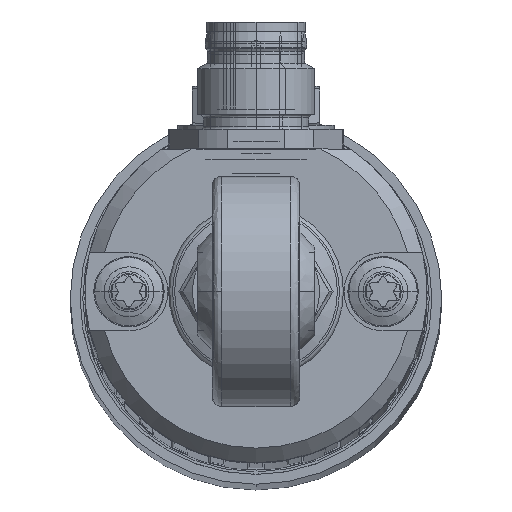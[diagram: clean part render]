
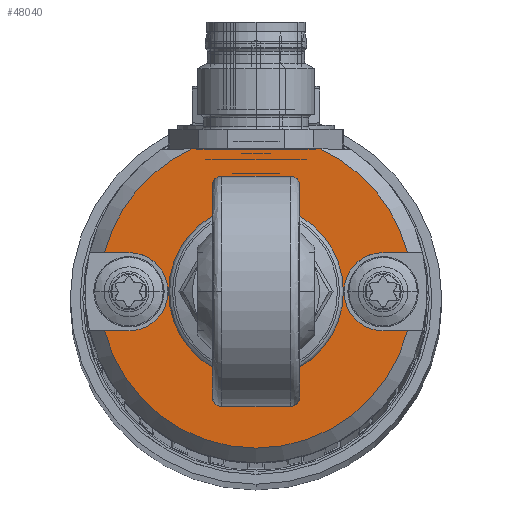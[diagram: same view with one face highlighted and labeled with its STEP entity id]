
A CAD part, top view. The second image highlights one B-rep face of the part: STEP entity #48040.
In plain terms, the highlighted planar face has unit normal (0, 0, 1).
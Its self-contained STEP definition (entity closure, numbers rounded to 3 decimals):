
#8566 = CARTESIAN_POINT ( 'NONE',  ( 0., 4.3, 406.7 ) ) ;
#8730 = DIRECTION ( 'NONE',  ( 0., 0., 1. ) ) ;
#8731 = CARTESIAN_POINT ( 'NONE',  ( 0., 0., 406.7 ) ) ;
#8732 = AXIS2_PLACEMENT_3D ( 'NONE', #8731, #8730, #8784 ) ;
#8733 = CIRCLE ( 'NONE', #8732, 4.3 ) ;
#8783 = CARTESIAN_POINT ( 'NONE',  ( 0., -4.3, 406.7 ) ) ;
#8784 = DIRECTION ( 'NONE',  ( 0., -1., 0. ) ) ;
#8873 = CARTESIAN_POINT ( 'NONE',  ( 0., 14.6, 406.7 ) ) ;
#8874 = LINE ( 'NONE', #8873, #8938 ) ;
#8875 = CARTESIAN_POINT ( 'NONE',  ( 6.545, 14.6, 406.7 ) ) ;
#8876 = DIRECTION ( 'NONE',  ( 0., 1., 0. ) ) ;
#8877 = DIRECTION ( 'NONE',  ( 0., 0., 1. ) ) ;
#8878 = CARTESIAN_POINT ( 'NONE',  ( 0., 0., 406.7 ) ) ;
#8879 = AXIS2_PLACEMENT_3D ( 'NONE', #8878, #8877, #8876 ) ;
#8880 = CIRCLE ( 'NONE', #8879, 16. ) ;
#8881 = CARTESIAN_POINT ( 'NONE',  ( 15.492, 4., 406.7 ) ) ;
#8882 = DIRECTION ( 'NONE',  ( 1., 0., 0. ) ) ;
#8883 = VECTOR ( 'NONE', #8882, 1000. ) ;
#8884 = CARTESIAN_POINT ( 'NONE',  ( 0., 4., 406.7 ) ) ;
#8885 = LINE ( 'NONE', #8884, #8883 ) ;
#8916 = FACE_OUTER_BOUND ( 'NONE', #48045, .T. ) ;
#8917 = FACE_BOUND ( 'NONE', #48041, .T. ) ;
#8925 = DIRECTION ( 'NONE',  ( -1., 0., 0. ) ) ;
#8926 = VECTOR ( 'NONE', #8925, 1000. ) ;
#8927 = CARTESIAN_POINT ( 'NONE',  ( -20., 4., 406.7 ) ) ;
#8928 = LINE ( 'NONE', #8927, #8926 ) ;
#8930 = CARTESIAN_POINT ( 'NONE',  ( -15.492, 4., 406.7 ) ) ;
#8931 = DIRECTION ( 'NONE',  ( 0., 1., 0. ) ) ;
#8932 = DIRECTION ( 'NONE',  ( 0., 0., 1. ) ) ;
#8933 = CARTESIAN_POINT ( 'NONE',  ( 0., 0., 406.7 ) ) ;
#8934 = AXIS2_PLACEMENT_3D ( 'NONE', #8933, #8932, #8931 ) ;
#8935 = CIRCLE ( 'NONE', #8934, 16. ) ;
#8936 = CARTESIAN_POINT ( 'NONE',  ( -6.545, 14.6, 406.7 ) ) ;
#8937 = DIRECTION ( 'NONE',  ( -1., 0., 0. ) ) ;
#8938 = VECTOR ( 'NONE', #8937, 1000. ) ;
#8959 = CARTESIAN_POINT ( 'NONE',  ( 13., 4., 406.7 ) ) ;
#8960 = DIRECTION ( 'NONE',  ( 0., -1., 0. ) ) ;
#8961 = DIRECTION ( 'NONE',  ( 0., 0., 1. ) ) ;
#8962 = CARTESIAN_POINT ( 'NONE',  ( 0., 0., 406.7 ) ) ;
#8963 = AXIS2_PLACEMENT_3D ( 'NONE', #8962, #8961, #8960 ) ;
#8964 = DIRECTION ( 'NONE',  ( 0., 1., 0. ) ) ;
#8965 = DIRECTION ( 'NONE',  ( 0., 0., -1. ) ) ;
#8966 = CARTESIAN_POINT ( 'NONE',  ( 0., 0., 406.7 ) ) ;
#8967 = AXIS2_PLACEMENT_3D ( 'NONE', #8966, #8965, #8964 ) ;
#8968 = CIRCLE ( 'NONE', #8963, 4.3 ) ;
#8969 = PLANE ( 'NONE',  #8967 ) ;
#9070 = DIRECTION ( 'NONE',  ( 0., -1., 0. ) ) ;
#9071 = DIRECTION ( 'NONE',  ( 0., 0., 1. ) ) ;
#9072 = CARTESIAN_POINT ( 'NONE',  ( 13., 0., 406.7 ) ) ;
#9073 = AXIS2_PLACEMENT_3D ( 'NONE', #9072, #9071, #9070 ) ;
#9075 = CIRCLE ( 'NONE', #9073, 4. ) ;
#9076 = AXIS2_PLACEMENT_3D ( 'NONE', #9141, #9140, #9139 ) ;
#9077 = CIRCLE ( 'NONE', #9076, 16. ) ;
#9078 = CARTESIAN_POINT ( 'NONE',  ( -15.492, -4., 406.7 ) ) ;
#9079 = DIRECTION ( 'NONE',  ( -1., 0., 0. ) ) ;
#9080 = VECTOR ( 'NONE', #9079, 1000. ) ;
#9081 = CARTESIAN_POINT ( 'NONE',  ( 0., -4., 406.7 ) ) ;
#9082 = LINE ( 'NONE', #9081, #9080 ) ;
#9083 = CARTESIAN_POINT ( 'NONE',  ( -13., -4., 406.7 ) ) ;
#9084 = DIRECTION ( 'NONE',  ( 0., -1., 0. ) ) ;
#9085 = DIRECTION ( 'NONE',  ( 0., 0., 1. ) ) ;
#9086 = CARTESIAN_POINT ( 'NONE',  ( -13., 0., 406.7 ) ) ;
#9087 = AXIS2_PLACEMENT_3D ( 'NONE', #9086, #9085, #9084 ) ;
#9088 = CIRCLE ( 'NONE', #9087, 4. ) ;
#9089 = CARTESIAN_POINT ( 'NONE',  ( -13., 4., 406.7 ) ) ;
#9133 = CARTESIAN_POINT ( 'NONE',  ( 13., -4., 406.7 ) ) ;
#9134 = DIRECTION ( 'NONE',  ( 1., 0., 0. ) ) ;
#9135 = VECTOR ( 'NONE', #9134, 1000. ) ;
#9136 = CARTESIAN_POINT ( 'NONE',  ( 13., -4., 406.7 ) ) ;
#9137 = LINE ( 'NONE', #9136, #9135 ) ;
#9138 = CARTESIAN_POINT ( 'NONE',  ( 15.492, -4., 406.7 ) ) ;
#9139 = DIRECTION ( 'NONE',  ( 0., 1., 0. ) ) ;
#9140 = DIRECTION ( 'NONE',  ( 0., 0., 1. ) ) ;
#9141 = CARTESIAN_POINT ( 'NONE',  ( 0., 0., 406.7 ) ) ;
#47903 = VERTEX_POINT ( 'NONE', #8566 ) ;
#47960 = EDGE_CURVE ( 'NONE', #47903, #47961, #8733, .T. ) ;
#47961 = VERTEX_POINT ( 'NONE', #8783 ) ;
#48020 = ORIENTED_EDGE ( 'NONE', *, *, #48021, .T. ) ;
#48021 = EDGE_CURVE ( 'NONE', #48046, #48022, #8885, .T. ) ;
#48022 = VERTEX_POINT ( 'NONE', #8881 ) ;
#48023 = ORIENTED_EDGE ( 'NONE', *, *, #48024, .T. ) ;
#48024 = EDGE_CURVE ( 'NONE', #48022, #48025, #8880, .T. ) ;
#48025 = VERTEX_POINT ( 'NONE', #8875 ) ;
#48026 = ORIENTED_EDGE ( 'NONE', *, *, #48027, .T. ) ;
#48027 = EDGE_CURVE ( 'NONE', #48025, #48028, #8874, .T. ) ;
#48028 = VERTEX_POINT ( 'NONE', #8936 ) ;
#48029 = ORIENTED_EDGE ( 'NONE', *, *, #48030, .T. ) ;
#48030 = EDGE_CURVE ( 'NONE', #48028, #48031, #8935, .T. ) ;
#48031 = VERTEX_POINT ( 'NONE', #8930 ) ;
#48032 = ORIENTED_EDGE ( 'NONE', *, *, #48033, .F. ) ;
#48033 = EDGE_CURVE ( 'NONE', #48088, #48031, #8928, .T. ) ;
#48040 = ADVANCED_FACE ( 'NONE', ( #8917, #8916 ), #8969, .F. ) ;
#48041 = EDGE_LOOP ( 'NONE', ( #48042, #48044 ) ) ;
#48042 = ORIENTED_EDGE ( 'NONE', *, *, #48043, .F. ) ;
#48043 = EDGE_CURVE ( 'NONE', #47961, #47903, #8968, .T. ) ;
#48044 = ORIENTED_EDGE ( 'NONE', *, *, #47960, .F. ) ;
#48045 = EDGE_LOOP ( 'NONE', ( #48020, #48023, #48026, #48029, #48032, #48089, #48092, #48095, #48098, #48101 ) ) ;
#48046 = VERTEX_POINT ( 'NONE', #8959 ) ;
#48074 = EDGE_CURVE ( 'NONE', #48046, #48100, #9075, .T. ) ;
#48088 = VERTEX_POINT ( 'NONE', #9089 ) ;
#48089 = ORIENTED_EDGE ( 'NONE', *, *, #48090, .F. ) ;
#48090 = EDGE_CURVE ( 'NONE', #48091, #48088, #9088, .T. ) ;
#48091 = VERTEX_POINT ( 'NONE', #9083 ) ;
#48092 = ORIENTED_EDGE ( 'NONE', *, *, #48093, .T. ) ;
#48093 = EDGE_CURVE ( 'NONE', #48091, #48094, #9082, .T. ) ;
#48094 = VERTEX_POINT ( 'NONE', #9078 ) ;
#48095 = ORIENTED_EDGE ( 'NONE', *, *, #48096, .T. ) ;
#48096 = EDGE_CURVE ( 'NONE', #48094, #48097, #9077, .T. ) ;
#48097 = VERTEX_POINT ( 'NONE', #9138 ) ;
#48098 = ORIENTED_EDGE ( 'NONE', *, *, #48099, .F. ) ;
#48099 = EDGE_CURVE ( 'NONE', #48100, #48097, #9137, .T. ) ;
#48100 = VERTEX_POINT ( 'NONE', #9133 ) ;
#48101 = ORIENTED_EDGE ( 'NONE', *, *, #48074, .F. ) ;
